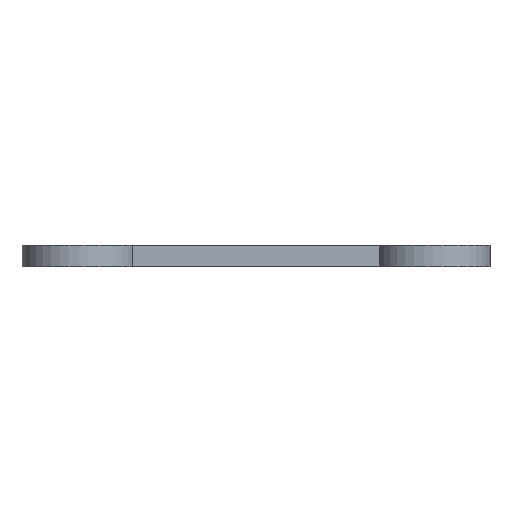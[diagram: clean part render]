
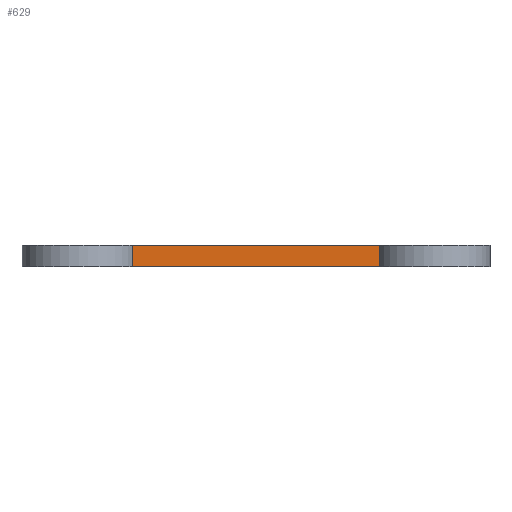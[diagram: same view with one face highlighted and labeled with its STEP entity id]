
A CAD part, left-side view. The second image highlights one B-rep face of the part: STEP entity #629.
In plain terms, the highlighted planar face has unit normal (-1, 0, 0).
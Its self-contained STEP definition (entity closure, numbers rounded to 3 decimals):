
#32 = PLANE('',#33);
#33 = AXIS2_PLACEMENT_3D('',#34,#35,#36);
#34 = CARTESIAN_POINT('',(3.25,3.25,0.));
#35 = DIRECTION('',(0.,0.,1.));
#36 = DIRECTION('',(1.,0.,-0.));
#57 = VERTEX_POINT('',#58);
#58 = CARTESIAN_POINT('',(2.,20.25,0.));
#73 = CYLINDRICAL_SURFACE('',#74,3.25);
#74 = AXIS2_PLACEMENT_3D('',#75,#76,#77);
#75 = CARTESIAN_POINT('',(3.25,23.25,0.));
#76 = DIRECTION('',(-0.,-0.,-1.));
#77 = DIRECTION('',(1.,0.,0.));
#85 = EDGE_CURVE('',#86,#57,#88,.T.);
#86 = VERTEX_POINT('',#87);
#87 = CARTESIAN_POINT('',(2.,6.25,0.));
#88 = SURFACE_CURVE('',#89,(#93,#100),.PCURVE_S1.);
#89 = LINE('',#90,#91);
#90 = CARTESIAN_POINT('',(2.,3.25,0.));
#91 = VECTOR('',#92,1.);
#92 = DIRECTION('',(0.,1.,0.));
#93 = PCURVE('',#32,#94);
#94 = DEFINITIONAL_REPRESENTATION('',(#95),#99);
#95 = LINE('',#96,#97);
#96 = CARTESIAN_POINT('',(-1.25,0.));
#97 = VECTOR('',#98,1.);
#98 = DIRECTION('',(0.,1.));
#99 = ( GEOMETRIC_REPRESENTATION_CONTEXT(2) 
PARAMETRIC_REPRESENTATION_CONTEXT() REPRESENTATION_CONTEXT('2D SPACE',''
  ) );
#100 = PCURVE('',#101,#106);
#101 = PLANE('',#102);
#102 = AXIS2_PLACEMENT_3D('',#103,#104,#105);
#103 = CARTESIAN_POINT('',(2.,3.25,0.));
#104 = DIRECTION('',(-1.,0.,0.));
#105 = DIRECTION('',(0.,1.,0.));
#106 = DEFINITIONAL_REPRESENTATION('',(#107),#111);
#107 = LINE('',#108,#109);
#108 = CARTESIAN_POINT('',(0.,0.));
#109 = VECTOR('',#110,1.);
#110 = DIRECTION('',(1.,0.));
#111 = ( GEOMETRIC_REPRESENTATION_CONTEXT(2) 
PARAMETRIC_REPRESENTATION_CONTEXT() REPRESENTATION_CONTEXT('2D SPACE',''
  ) );
#130 = CYLINDRICAL_SURFACE('',#131,3.25);
#131 = AXIS2_PLACEMENT_3D('',#132,#133,#134);
#132 = CARTESIAN_POINT('',(3.25,3.25,0.));
#133 = DIRECTION('',(-0.,-0.,-1.));
#134 = DIRECTION('',(1.,0.,0.));
#493 = PLANE('',#494);
#494 = AXIS2_PLACEMENT_3D('',#495,#496,#497);
#495 = CARTESIAN_POINT('',(3.25,23.25,1.2));
#496 = DIRECTION('',(0.,0.,1.));
#497 = DIRECTION('',(1.,0.,-0.));
#532 = VERTEX_POINT('',#533);
#533 = CARTESIAN_POINT('',(2.,20.25,1.2));
#555 = EDGE_CURVE('',#532,#57,#556,.T.);
#556 = SURFACE_CURVE('',#557,(#561,#568),.PCURVE_S1.);
#557 = LINE('',#558,#559);
#558 = CARTESIAN_POINT('',(2.,20.25,0.));
#559 = VECTOR('',#560,1.);
#560 = DIRECTION('',(-0.,-0.,-1.));
#561 = PCURVE('',#73,#562);
#562 = DEFINITIONAL_REPRESENTATION('',(#563),#567);
#563 = LINE('',#564,#565);
#564 = CARTESIAN_POINT('',(-4.318,0.));
#565 = VECTOR('',#566,1.);
#566 = DIRECTION('',(-0.,1.));
#567 = ( GEOMETRIC_REPRESENTATION_CONTEXT(2) 
PARAMETRIC_REPRESENTATION_CONTEXT() REPRESENTATION_CONTEXT('2D SPACE',''
  ) );
#568 = PCURVE('',#101,#569);
#569 = DEFINITIONAL_REPRESENTATION('',(#570),#574);
#570 = LINE('',#571,#572);
#571 = CARTESIAN_POINT('',(17.,0.));
#572 = VECTOR('',#573,1.);
#573 = DIRECTION('',(0.,1.));
#574 = ( GEOMETRIC_REPRESENTATION_CONTEXT(2) 
PARAMETRIC_REPRESENTATION_CONTEXT() REPRESENTATION_CONTEXT('2D SPACE',''
  ) );
#629 = ADVANCED_FACE('',(#630),#101,.T.);
#630 = FACE_BOUND('',#631,.T.);
#631 = EDGE_LOOP('',(#632,#633,#656,#677));
#632 = ORIENTED_EDGE('',*,*,#85,.F.);
#633 = ORIENTED_EDGE('',*,*,#634,.F.);
#634 = EDGE_CURVE('',#635,#86,#637,.T.);
#635 = VERTEX_POINT('',#636);
#636 = CARTESIAN_POINT('',(2.,6.25,1.2));
#637 = SURFACE_CURVE('',#638,(#642,#649),.PCURVE_S1.);
#638 = LINE('',#639,#640);
#639 = CARTESIAN_POINT('',(2.,6.25,0.));
#640 = VECTOR('',#641,1.);
#641 = DIRECTION('',(-0.,-0.,-1.));
#642 = PCURVE('',#101,#643);
#643 = DEFINITIONAL_REPRESENTATION('',(#644),#648);
#644 = LINE('',#645,#646);
#645 = CARTESIAN_POINT('',(3.,0.));
#646 = VECTOR('',#647,1.);
#647 = DIRECTION('',(0.,1.));
#648 = ( GEOMETRIC_REPRESENTATION_CONTEXT(2) 
PARAMETRIC_REPRESENTATION_CONTEXT() REPRESENTATION_CONTEXT('2D SPACE',''
  ) );
#649 = PCURVE('',#130,#650);
#650 = DEFINITIONAL_REPRESENTATION('',(#651),#655);
#651 = LINE('',#652,#653);
#652 = CARTESIAN_POINT('',(-1.966,0.));
#653 = VECTOR('',#654,1.);
#654 = DIRECTION('',(-0.,1.));
#655 = ( GEOMETRIC_REPRESENTATION_CONTEXT(2) 
PARAMETRIC_REPRESENTATION_CONTEXT() REPRESENTATION_CONTEXT('2D SPACE',''
  ) );
#656 = ORIENTED_EDGE('',*,*,#657,.T.);
#657 = EDGE_CURVE('',#635,#532,#658,.T.);
#658 = SURFACE_CURVE('',#659,(#663,#670),.PCURVE_S1.);
#659 = LINE('',#660,#661);
#660 = CARTESIAN_POINT('',(2.,3.25,1.2));
#661 = VECTOR('',#662,1.);
#662 = DIRECTION('',(0.,1.,0.));
#663 = PCURVE('',#101,#664);
#664 = DEFINITIONAL_REPRESENTATION('',(#665),#669);
#665 = LINE('',#666,#667);
#666 = CARTESIAN_POINT('',(0.,-1.2));
#667 = VECTOR('',#668,1.);
#668 = DIRECTION('',(1.,0.));
#669 = ( GEOMETRIC_REPRESENTATION_CONTEXT(2) 
PARAMETRIC_REPRESENTATION_CONTEXT() REPRESENTATION_CONTEXT('2D SPACE',''
  ) );
#670 = PCURVE('',#493,#671);
#671 = DEFINITIONAL_REPRESENTATION('',(#672),#676);
#672 = LINE('',#673,#674);
#673 = CARTESIAN_POINT('',(-1.25,-20.));
#674 = VECTOR('',#675,1.);
#675 = DIRECTION('',(0.,1.));
#676 = ( GEOMETRIC_REPRESENTATION_CONTEXT(2) 
PARAMETRIC_REPRESENTATION_CONTEXT() REPRESENTATION_CONTEXT('2D SPACE',''
  ) );
#677 = ORIENTED_EDGE('',*,*,#555,.T.);
